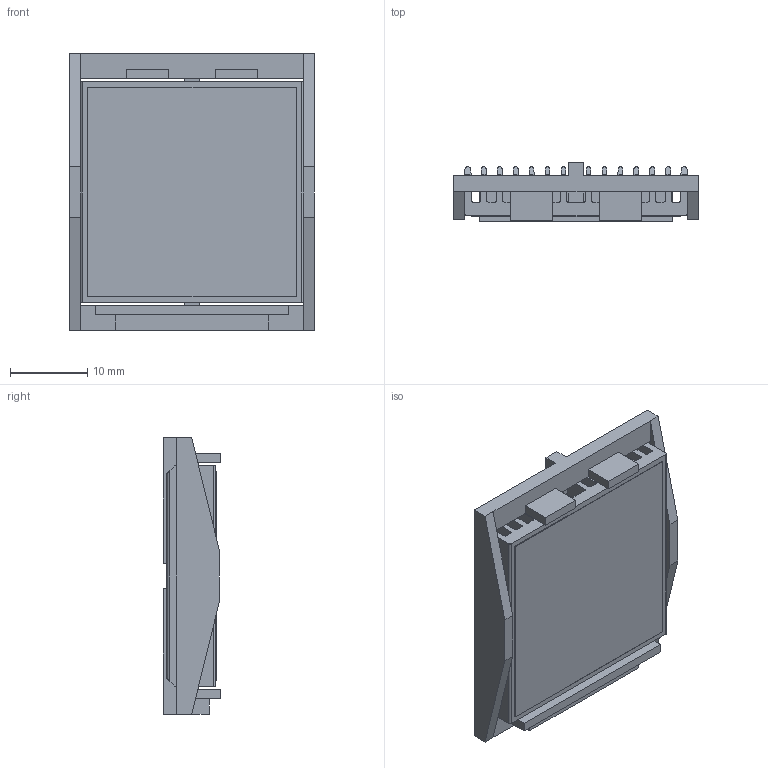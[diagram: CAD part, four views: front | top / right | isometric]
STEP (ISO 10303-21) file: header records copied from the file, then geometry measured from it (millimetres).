
FILE_DESCRIPTION (( 'STEP AP214' ), '1' );
FILE_NAME ('INL29001-6-1.7O.STEP', '2023-02-21T22:45:21', ( '' ), ( '' ), 'SwSTEP 2.0', 'SolidWorks 2020', '' );
FILE_SCHEMA (( 'AUTOMOTIVE_DESIGN' ));
Length unit declared in the file: millimetre
Products named in the file (1): INL29001-6-1.7O
Bounding box: 31.7 x 7.5 x 35.8 mm (x, y, z)
Volume: 3961.4 mm3; surface area: 8767.3 mm2
Topology: 3 solids, 3 shells, 168 faces, 488 edges, 324 vertices
Faces by surface type: plane 126, cylinder 42
Entity records: 7380 total; most frequent: CARTESIAN_POINT 1065, ORIENTED_EDGE 976, DIRECTION 854, EDGE_CURVE 488, LINE 404, VECTOR 404, VERTEX_POINT 324, AXIS2_PLACEMENT_3D 225
